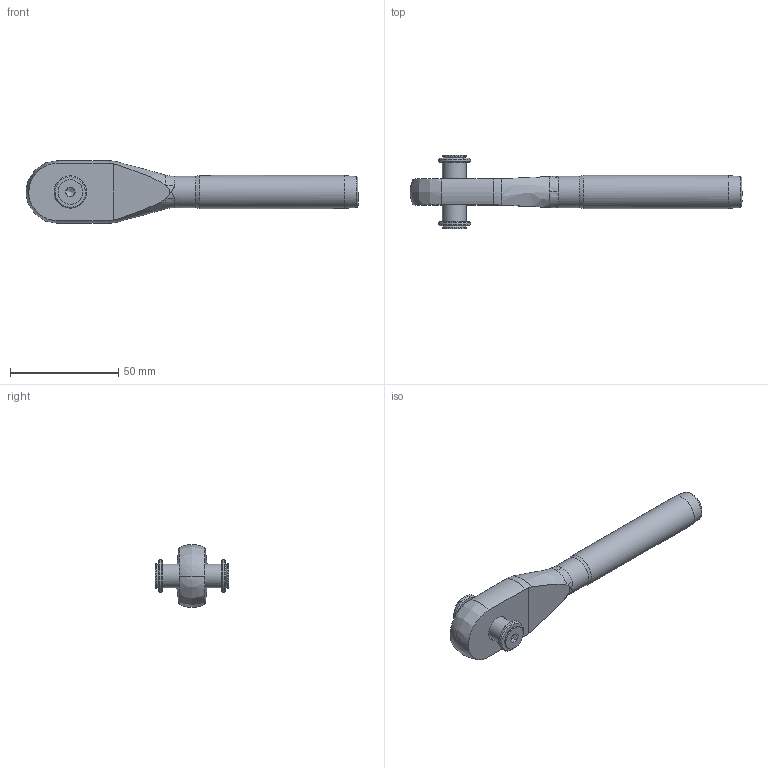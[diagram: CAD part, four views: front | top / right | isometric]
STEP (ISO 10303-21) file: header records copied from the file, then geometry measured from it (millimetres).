
FILE_DESCRIPTION(/* description */ (''),/* implementation_level */ '2;1');
FILE_NAME(/* name */ 'MCC 08_42CrMo4',/* time_stamp */ '2023-05-23T15:40:57+02:00',/* author */ (''),/* organization */ (''),/* preprocessor_version */ 'ST-DEVELOPER v16.5',/* originating_system */ 'Rhino 7.22',/* authorisation */ '');
FILE_SCHEMA (('CONFIG_CONTROL_DESIGN'));
Length unit declared in the file: millimetre
Products named in the file (1): Document
Bounding box: 153.5 x 33.9 x 29 mm (x, y, z)
Volume: 37098.5 mm3; surface area: 12295.1 mm2
Topology: 6 solids, 6 shells, 74 faces, 203 edges, 135 vertices
Faces by surface type: bspline 31, plane 27, cylinder 16
Full cylindrical faces by diameter (mm): 4.917 x2, 6 x2, 6.5 x2, 11 x1, 11.34 x2, 12 x1, 14.5 x1, 15 x2, 15.3 x1
Entity records: 3225 total; most frequent: CARTESIAN_POINT 1970, ORIENTED_EDGE 386, EDGE_CURVE 193, VERTEX_POINT 135, EDGE_LOOP 84, ADVANCED_FACE 74, FACE_OUTER_BOUND 74, B_SPLINE_CURVE_WITH_KNOTS 64
